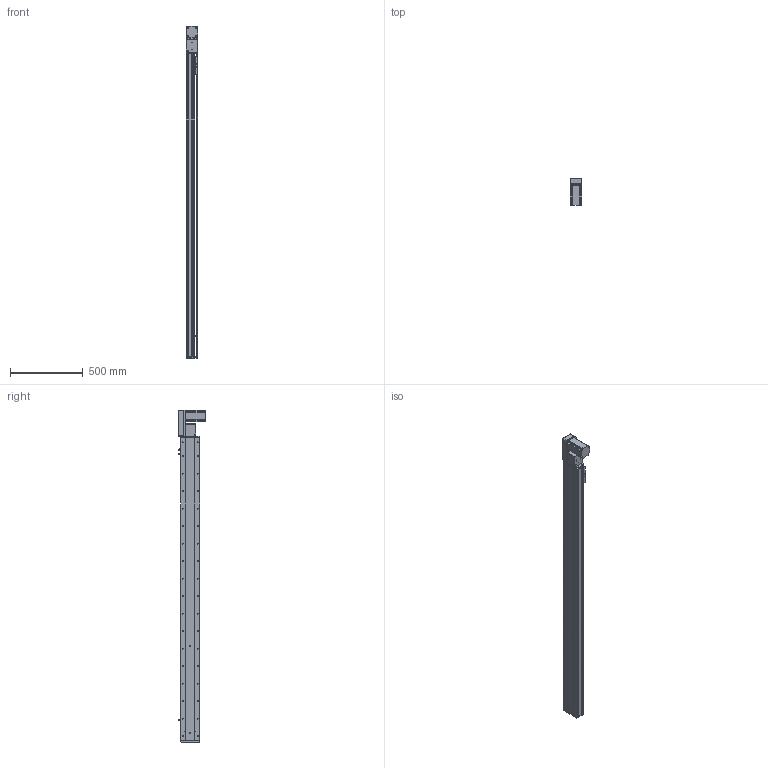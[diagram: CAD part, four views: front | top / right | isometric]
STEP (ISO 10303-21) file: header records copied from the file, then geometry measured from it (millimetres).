
FILE_DESCRIPTION (( 'STEP AP214' ), '1' );
FILE_NAME ('KSD130B-S1850-MRB-CM.STEP', '2019-11-15T08:02:09', ( '微软用户' ), ( '微软中国' ), 'SwSTEP 2.0', 'SolidWorks 2014', '' );
FILE_SCHEMA (( 'AUTOMOTIVE_DESIGN' ));
Length unit declared in the file: millimetre
Products named in the file (12): 130宽马达安装板同步带右-改镜向_默认<按加工>; 130宽马达安装板同步带半封闭; 130宽同步带安装座半封闭; 130宽端盖同步带半封闭; 130宽底板半封闭同步带-1850行程; KSD130B-S1850-MRB-CM; 台达ECMA－C20807AS伺服电机; 130宽模组保护罩上下左右折-同步带; 130宽模组马达安装板连板左右折同步带; 覜茼え100遵圉猾敕; U倰嫖萇EEㄜSX672; 130宽盖板半封闭同步带-1850行程
Assembly tree (13 placements, depth 2):
  KSD130B-S1850-MRB-CM
    130宽底板半封闭同步带-1850行程
    130宽端盖同步带半封闭
    130宽同步带安装座半封闭
    130宽马达安装板同步带半封闭
    130宽马达安装板同步带右-改镜向_默认<按加工>
    130宽盖板半封闭同步带-1850行程
    U倰嫖萇EEㄜSX672  x3
    覜茼え100遵圉猾敕
    130宽模组马达安装板连板左右折同步带
    130宽模组保护罩上下左右折-同步带
    台达ECMA－C20807AS伺服电机
Bounding box: 81 x 184.8 x 2277 mm (x, y, z)
Volume: 7281125.9 mm3; surface area: 2065399.5 mm2
Topology: 14 solids, 14 shells, 1749 faces, 5101 edges, 3231 vertices
Faces by surface type: cylinder 864, plane 654, cone 231
Entity records: 59847 total; most frequent: CARTESIAN_POINT 11636, DIRECTION 9003, ORIENTED_EDGE 8726, EDGE_CURVE 4363, AXIS2_PLACEMENT_3D 3318, VERTEX_POINT 2855, VECTOR 2367, LINE 2367
